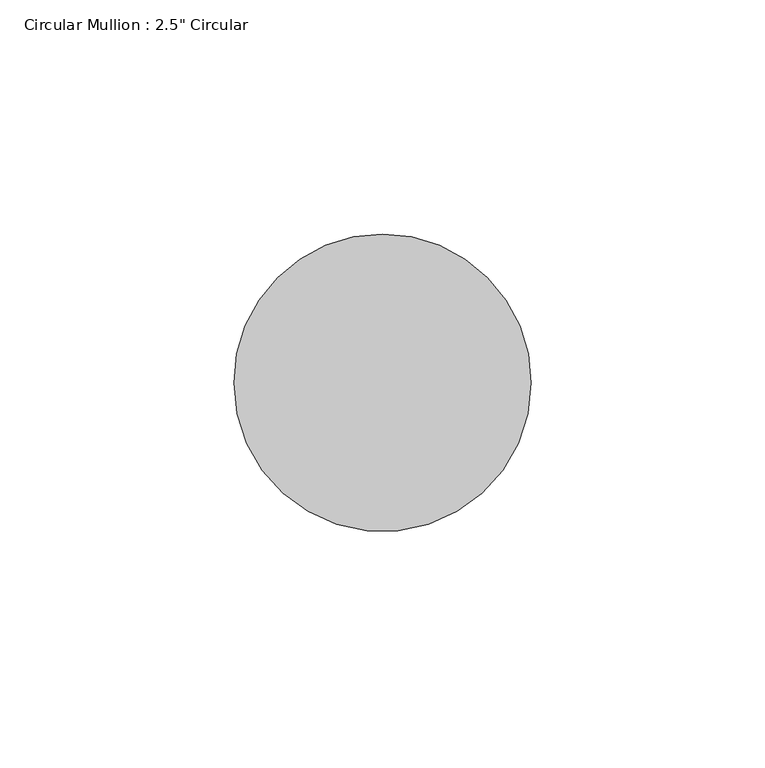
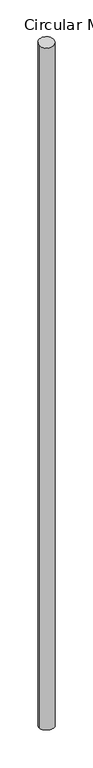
"""IFC4 building model written with IfcOpenShell, lengths in millimetres: member geometry."""

from ifc_helpers import new_model, si_unit, frame, origin, place, context, project, spatial, ellipse_curve, source, transform, mapped, element, save
from ifc_brep_helpers import plane_surface, cylinder_surface, advanced_brep


def member_24125101(model_context):
    return source(origin(), model_context, "Body", "AdvancedBrep", [
        advanced_brep(
        [(-63.5, 0.0, -2.6087453), (0.0, 0.0, 0.0), (0.0, 0.0, -3057.1312907), (-63.5, 0.0, -3055.0368055)],
        [
            (0, 1, ellipse_curve(frame((-31.75, 0.0, -1.3043726), z_axis=(0.04082128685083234, 0.10495062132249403, -0.9936392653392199), x_axis=(0.36019568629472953, 0.9260551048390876, 0.11260999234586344)), 31.9532461, 31.75)),
            (1, 2),
            (2, 3, ellipse_curve(frame((-31.75, 0.0, -3056.0840481), z_axis=(0.032842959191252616, 0.08634974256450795, 0.9957233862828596), x_axis=(-0.35398169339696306, -0.9306782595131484, 0.0923847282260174)), 31.8863657, 31.75)),
            (3, 0),
            (1, 0, ellipse_curve(frame((-31.75, 0.0, -1.3043726), z_axis=(0.04082128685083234, 0.10495062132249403, -0.9936392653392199), x_axis=(0.36019568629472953, 0.9260551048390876, 0.11260999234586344)), 31.9532461, 31.75)),
            (3, 2, ellipse_curve(frame((-31.75, 0.0, -3056.0840481), z_axis=(0.032842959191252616, 0.08634974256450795, 0.9957233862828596), x_axis=(-0.35398169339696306, -0.9306782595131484, 0.0923847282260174)), 31.8863657, 31.75)),
        ],
        [
            cylinder_surface(frame((-31.75, 0.0, 0.0), z_axis=(0.0, 0.0, 1.0), x_axis=(1.0, 0.0, 0.0)), 31.75),
            plane_surface(frame((284.0684802, -110.4904456, 0.0), z_axis=(-0.04082128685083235, -0.10495062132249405, 0.9936392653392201), x_axis=(-0.36019568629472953, -0.9260551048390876, -0.11260999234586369))),
            plane_surface(frame((284.8890941, -108.3570213, -3057.1312907), z_axis=(-0.03284295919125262, -0.08634974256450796, -0.9957233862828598), x_axis=(-0.35398169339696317, -0.9306782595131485, 0.09238472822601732))),
        ],
        [
            (0, [[1, 2, 3, 4]]),
            (0, [[5, -4, 6, -2]]),
            (1, [[-1, -5]]),
            (2, [[-6, -3]]),
        ],
    ),
    ])


if __name__ == "__main__":
    model = new_model("IFC4")
    model_context = context("Model", 3, world=origin())
    ifc_project = project(units=[si_unit("LENGTHUNIT", "METRE", prefix="MILLI")], contexts=[model_context])
    site = spatial("IfcSite", under=ifc_project)
    building = spatial("IfcBuilding", under=site)
    placement = place(None, origin())
    member_shape = member_24125101(model_context)
    element("IfcMember", 1, ObjectType="Circular Mullion : 2.5\" Circular", at=placement, inside=building, context=model_context, shape_type="MappedRepresentation", body=[
        mapped(member_shape, transform((0.0, 0.0, 0.0), x_axis=(1.0, 0.0, 0.0), y_axis=(0.0, 1.0, 0.0), z_axis=(0.0, 0.0, 1.0))),
    ])
    save(model, "model.ifc")
